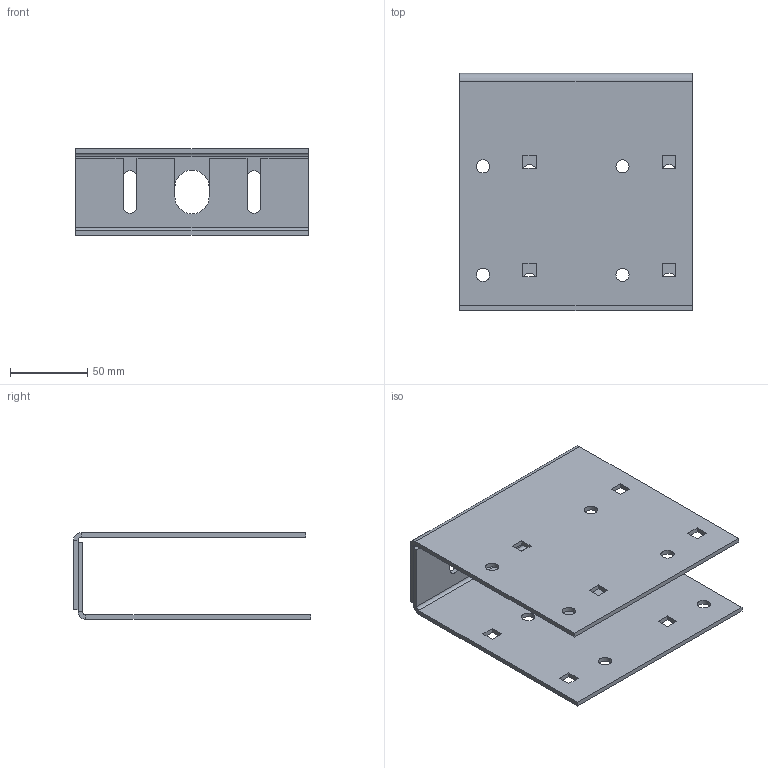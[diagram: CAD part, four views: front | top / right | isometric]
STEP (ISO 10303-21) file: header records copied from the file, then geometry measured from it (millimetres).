
FILE_DESCRIPTION(/* description */ ('Biegeteil mit Löchern'),/* implementation_level */ '2;1');
FILE_NAME(/* name */ 'Q:\sge-ma\Produktmanagement-STB\STB\Workspace\stp\010336530.stp',/* time_stamp */ '2016-07-18T14:04:28+02:00',/* author */ ('avschreier'),/* organization */ (''),/* preprocessor_version */ 'ST-DEVELOPER v16.1',/* originating_system */ 'Autodesk Inventor 2016',/* authorisation */ '');
FILE_SCHEMA (('AUTOMOTIVE_DESIGN { 1 0 10303 214 3 1 1 }'));
Length unit declared in the file: millimetre
Products named in the file (2): 337000232; 010336530
Assembly tree (2 placements, depth 2):
  010336530
    337000232  x2
Bounding box: 150 x 153 x 56 mm (x, y, z)
Volume: 164554.6 mm3; surface area: 116485.2 mm2
Topology: 2 solids, 2 shells, 92 faces, 248 edges, 160 vertices
Faces by surface type: plane 74, cylinder 18
Full cylindrical faces by diameter (mm): 8.5 x8
Entity records: 1486 total; most frequent: CARTESIAN_POINT 250, ORIENTED_EDGE 240, DIRECTION 238, EDGE_CURVE 120, LINE 102, VECTOR 102, VERTEX_POINT 80, AXIS2_PLACEMENT_3D 68
